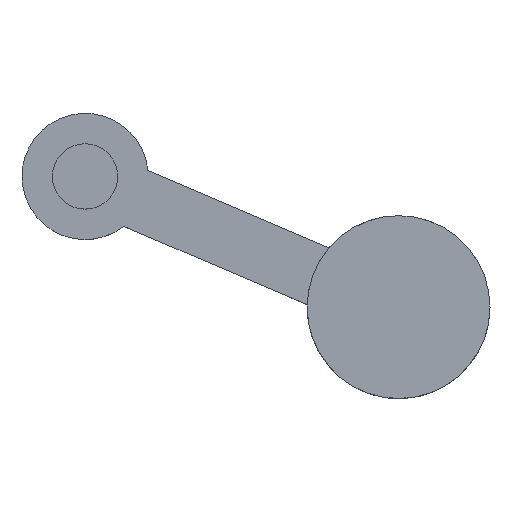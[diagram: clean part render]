
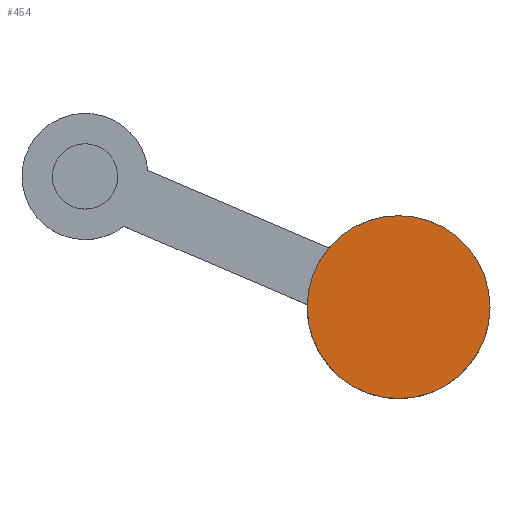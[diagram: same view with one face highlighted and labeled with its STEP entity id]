
A CAD part, top view. The second image highlights one B-rep face of the part: STEP entity #454.
In plain terms, the highlighted planar face has unit normal (0, 0, 1).
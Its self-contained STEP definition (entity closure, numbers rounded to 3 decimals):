
#128 = CYLINDRICAL_SURFACE('',#129,4.2);
#129 = AXIS2_PLACEMENT_3D('',#130,#131,#132);
#130 = CARTESIAN_POINT('',(14.4,-19.,9.85));
#131 = DIRECTION('',(0.,0.,1.));
#132 = DIRECTION('',(1.,0.,-0.));
#301 = VERTEX_POINT('',#302);
#302 = CARTESIAN_POINT('',(18.6,-19.,11.35));
#323 = EDGE_CURVE('',#301,#301,#324,.T.);
#324 = SURFACE_CURVE('',#325,(#330,#337),.PCURVE_S1.);
#325 = CIRCLE('',#326,4.2);
#326 = AXIS2_PLACEMENT_3D('',#327,#328,#329);
#327 = CARTESIAN_POINT('',(14.4,-19.,11.35));
#328 = DIRECTION('',(0.,0.,1.));
#329 = DIRECTION('',(1.,0.,-0.));
#330 = PCURVE('',#128,#331);
#331 = DEFINITIONAL_REPRESENTATION('',(#332),#336);
#332 = LINE('',#333,#334);
#333 = CARTESIAN_POINT('',(0.,1.5));
#334 = VECTOR('',#335,1.);
#335 = DIRECTION('',(1.,0.));
#336 = ( GEOMETRIC_REPRESENTATION_CONTEXT(2) 
PARAMETRIC_REPRESENTATION_CONTEXT() REPRESENTATION_CONTEXT('2D SPACE',''
  ) );
#337 = PCURVE('',#338,#343);
#338 = PLANE('',#339);
#339 = AXIS2_PLACEMENT_3D('',#340,#341,#342);
#340 = CARTESIAN_POINT('',(14.4,-19.,11.35));
#341 = DIRECTION('',(0.,0.,1.));
#342 = DIRECTION('',(1.,0.,-0.));
#343 = DEFINITIONAL_REPRESENTATION('',(#344),#348);
#344 = CIRCLE('',#345,4.2);
#345 = AXIS2_PLACEMENT_2D('',#346,#347);
#346 = CARTESIAN_POINT('',(0.,0.));
#347 = DIRECTION('',(1.,0.));
#348 = ( GEOMETRIC_REPRESENTATION_CONTEXT(2) 
PARAMETRIC_REPRESENTATION_CONTEXT() REPRESENTATION_CONTEXT('2D SPACE',''
  ) );
#454 = ADVANCED_FACE('',(#455),#338,.T.);
#455 = FACE_BOUND('',#456,.T.);
#456 = EDGE_LOOP('',(#457));
#457 = ORIENTED_EDGE('',*,*,#323,.T.);
